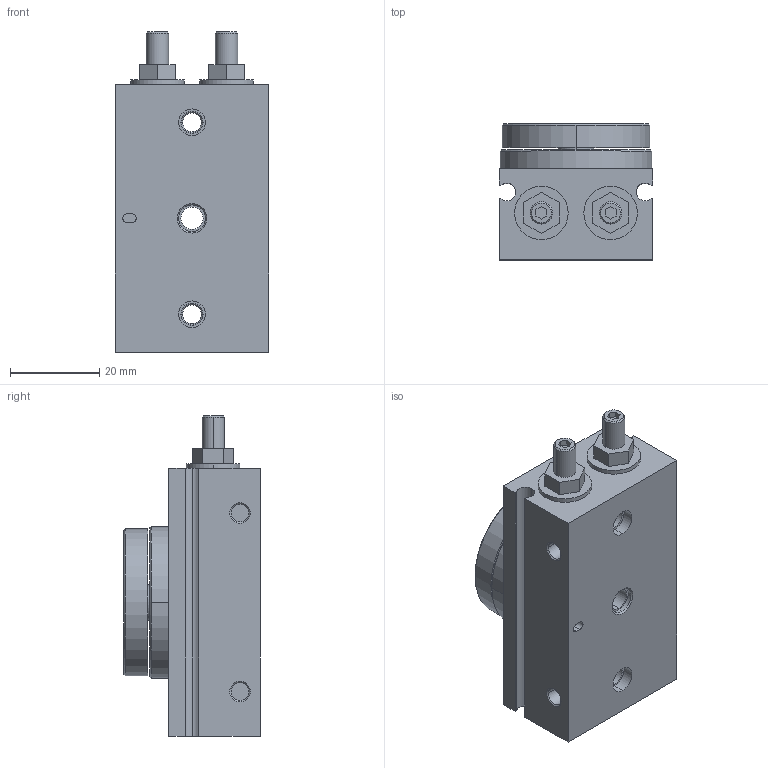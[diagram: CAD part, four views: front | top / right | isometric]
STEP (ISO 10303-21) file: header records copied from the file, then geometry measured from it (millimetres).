
FILE_DESCRIPTION (( 'STEP AP214' ), '1' );
FILE_NAME ('MSQB3A.step.step', '2022-12-06T06:42:17', ( '' ), ( '' ), 'SwSTEP 2.0', 'SolidWorks 2022', '' );
FILE_SCHEMA (( 'AUTOMOTIVE_DESIGN' ));
Length unit declared in the file: millimetre
Products named in the file (3): MSQB3A.step; MSQB3A.step_MSQ-Body_3; MSQB3A.step_MSQ-Table_3
Assembly tree (2 placements, depth 2):
  MSQB3A.step
    MSQB3A.step_MSQ-Body_3
    MSQB3A.step_MSQ-Table_3
Bounding box: 34.5 x 30.5 x 71.8 mm (x, y, z)
Volume: 47132.8 mm3; surface area: 15779.3 mm2
Topology: 2 solids, 2 shells, 322 faces, 751 edges, 484 vertices
Faces by surface type: plane 143, cylinder 109, cone 70
Entity records: 9381 total; most frequent: DIRECTION 1713, CARTESIAN_POINT 1562, ORIENTED_EDGE 1502, EDGE_CURVE 751, AXIS2_PLACEMENT_3D 635, VERTEX_POINT 484, VECTOR 443, LINE 443
